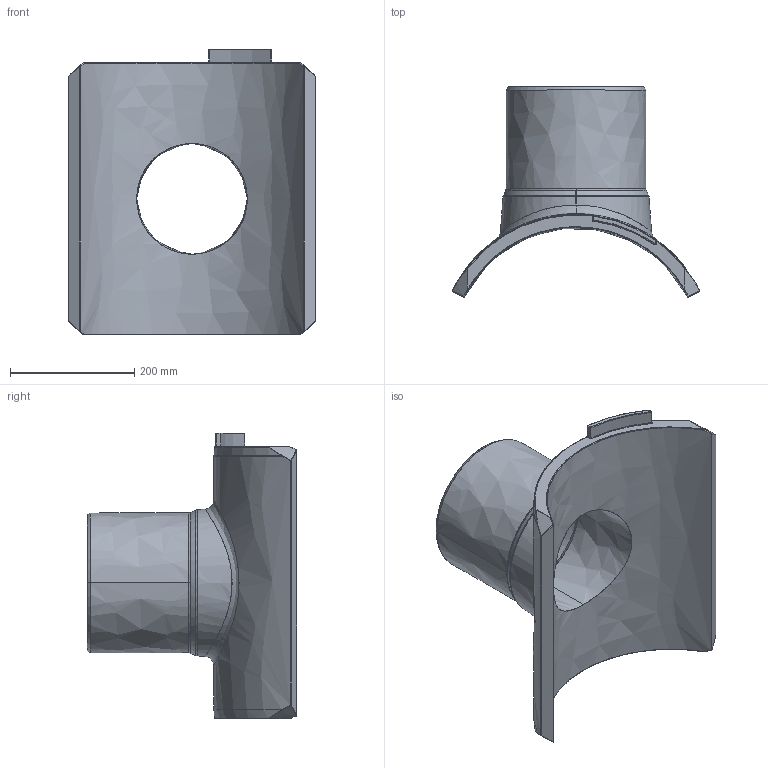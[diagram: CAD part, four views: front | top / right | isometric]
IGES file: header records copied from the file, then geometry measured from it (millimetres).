
Start section:  PTC IGES file: sa-uni_d400_225_01.igs
Global section: file name: sa-uni_d400_225_01.igs; native system: Creo Parametric by PTC Inc.; preprocessor: 2022124; author: mikulicp; organization: Unknown; date: 20240701.111017; units: millimetre
Bounding box: 397.99 x 337.63 x 460 mm (x, y, z)
Surface area: 683171.2 mm2 (no closed solid volume)
Topology: 0 solids, 0 shells, 245 faces, 1178 edges, 1178 vertices
Faces by surface type: bspline 245
